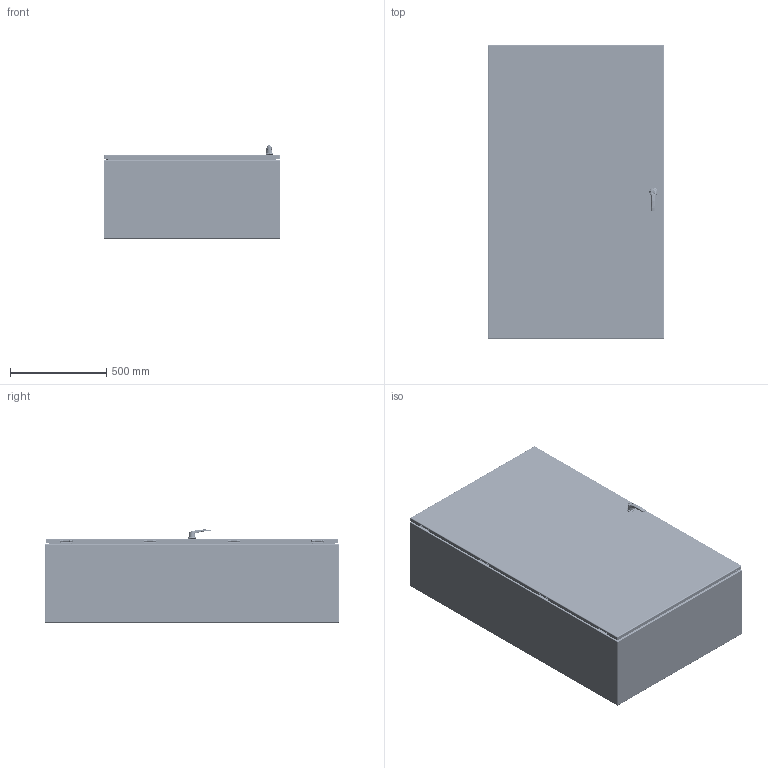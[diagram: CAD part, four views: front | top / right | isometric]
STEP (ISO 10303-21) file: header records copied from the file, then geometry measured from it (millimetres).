
FILE_DESCRIPTION(/* description */ ('5412ES 60" x 36" x 16" Assembly'),/* implementation_level */ '2;1');
FILE_NAME(/* name */ 'C:\Vault_Workspace\Inventor_Dwg\BoxCad\Result\5412ESB603616\e-mail\3D\5412ESB603616.stp',/* time_stamp */ '2022-03-24T15:49:18-04:00',/* author */ ('BoxCad'),/* organization */ (''),/* preprocessor_version */ 'ST-DEVELOPER v18.1',/* originating_system */ 'Autodesk Inventor 2020',/* authorisation */ '');
FILE_SCHEMA (('AUTOMOTIVE_DESIGN { 1 0 10303 214 3 1 1 }'));
Products named in the file (61): 5412ESB603616; 5412ESB603616B; 5412ESB603616B-P; STK-Q-16005; STUD_M6 x 16mm; STK-Q-07610; 881SP6036G; 881SP6036G-P; STK-Q-07310; 5412ESB603616C; 5412ESB603616C-P; 5412ESB603616G; STK-K-09800; STK-K-09800-2; STK-K-09800-3; STK-K-09800-4; STK-Q-33014; STK-Q-90398; STK-Q-40095; STK-Q-63410; STK-Q-16405; STK-Q-46020-60; STK-Q-46025-36-3; STK-Q-07220-1; STK-Q-07220-2; STK-Q-07220-3; STK-Q-07220-4; STK-Q-07220-5; STK-Q-07220-6; STK-Q-07220-7; STK-Q-07220-8; STK-Q-07220-9; STK-Q-07220-10; STK-Q-07220-A; STK-Q-07220-B; STK-Q-16055; STK-Q-46515-1; STK-Q-46515-B; STK-Q-46515-A; STK-P-03820R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
Assembly tree (141 placements, depth 4):
  5412ESB603616
    5412ESB603616B
      5412ESB603616B-P
      STK-Q-16005  x8
      STK-P-03820R
      STUD_M6 x 16mm
    STK-Q-07610  x8
    881SP6036G
      881SP6036G-P
    STK-Q-07310  x8
    5412ESB603616C
      5412ESB603616C-P
      5412ESB603616G
      STK-K-09800
        STK-Q-33014
        STK-Q-90398
        STK-Q-40095  x2
        STK-Q-63410  x2
      STK-K-09800-2
        STK-Q-33014
        STK-Q-90398
        STK-Q-40095  x2
        STK-Q-63410  x2
      STK-K-09800-3
        STK-Q-33014
        STK-Q-90398
        STK-Q-40095  x2
        STK-Q-63410  x2
      STK-K-09800-4
        STK-Q-33014
        STK-Q-90398
        STK-Q-40095  x2
        STK-Q-63410  x2
      STK-Q-16055  x11
      STK-Q-16405  x2
      STK-Q-46020-60  x2
      STK-Q-46025-36-3  x2
      STK-Q-07220-1
        STK-Q-07220-A
        STK-Q-07220-B
      STK-Q-07220-2
        STK-Q-07220-A
        STK-Q-07220-B
      STK-Q-07220-3
        STK-Q-07220-A
        STK-Q-07220-B
      STK-Q-07220-4
        STK-Q-07220-A
        STK-Q-07220-B
      STK-Q-07220-5
        STK-Q-07220-A
        STK-Q-07220-B
      STK-Q-07220-6
        STK-Q-07220-A
        STK-Q-07220-B
      STK-Q-07220-7
        STK-Q-07220-A
        STK-Q-07220-B
      STK-Q-07220-8
        STK-Q-07220-A
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Bounding box: 914.85 x 1524 x 482.99 mm (x, y, z)
Volume: 12914658.8 mm3; surface area: 13527391.8 mm2
Topology: 114 solids, 114 shells, 18675 faces, 50372 edges, 32202 vertices
Faces by surface type: bspline 6962, cylinder 5267, plane 4328, torus 1483, sphere 328, cone 307
Full cylindrical faces by diameter (mm): 0 x1, 0.75 x22, 0.762 x22, 1 x16, 1.1 x16, 1.581 x1, 2.459 x1, 3.2 x8, 4.191 x170, 4.2 x2, 4.5 x11, 4.521 x16, 4.75 x4, 4.85 x32, 4.95 x8, 5 x10, 5.1 x35, 5.105 x13, 5.11 x1, 5.156 x2, 5.6 x4, 5.9 x28, 6.015 x170, 6.65 x8, 6.8 x10, 6.85 x32, 7.3 x4, 7.366 x4, 7.468 x2, 7.5 x2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
Entity records: 217915 total; most frequent: CARTESIAN_POINT 80393, ORIENTED_EDGE 30492, DIRECTION 24395, EDGE_CURVE 15246, VERTEX_POINT 9684, AXIS2_PLACEMENT_3D 9060, EDGE_LOOP 6538, LINE 6275
